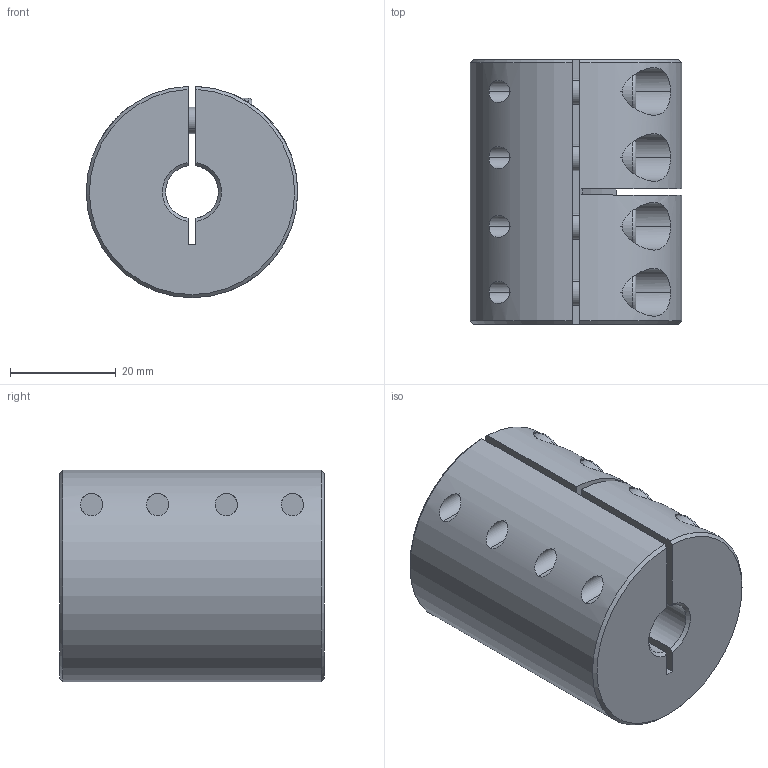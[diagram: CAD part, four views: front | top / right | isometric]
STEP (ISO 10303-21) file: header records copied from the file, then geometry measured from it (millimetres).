
FILE_DESCRIPTION (( 'STEP AP214' ), '1' );
FILE_NAME ('LL-B-D40L50-10-10½¨Ä£.STEP', '2022-07-22T00:10:34', ( '' ), ( '' ), 'SwSTEP 2.0', 'SolidWorks 2022', '' );
FILE_SCHEMA (( 'AUTOMOTIVE_DESIGN' ));
Length unit declared in the file: millimetre
Products named in the file (1): LL-B-D40L50-10-10膘耀
Bounding box: 40 x 50 x 39.99 mm (x, y, z)
Volume: 55309.5 mm3; surface area: 15524.6 mm2
Topology: 1 solids, 1 shells, 178 faces, 451 edges, 283 vertices
Faces by surface type: plane 86, cylinder 69, cone 15, torus 8
Entity records: 5878 total; most frequent: CARTESIAN_POINT 1501, DIRECTION 946, ORIENTED_EDGE 886, EDGE_CURVE 443, AXIS2_PLACEMENT_3D 368, VERTEX_POINT 283, VECTOR 210, EDGE_LOOP 210
